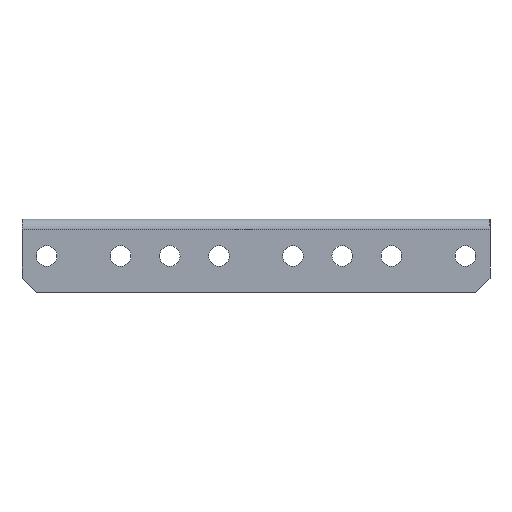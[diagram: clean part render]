
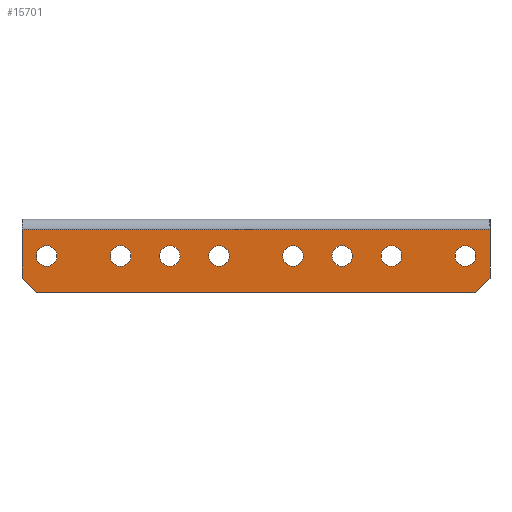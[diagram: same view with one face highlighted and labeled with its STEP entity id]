
A CAD part, front view. The second image highlights one B-rep face of the part: STEP entity #15701.
In plain terms, the highlighted planar face has unit normal (0, -1, 0).
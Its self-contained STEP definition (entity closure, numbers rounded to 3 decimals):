
#13546=CARTESIAN_POINT(' ',(-47.5,-33.,-2.1));
#13547=VERTEX_POINT(' ',#13546);
#13561=CARTESIAN_POINT(' ',(-47.5,-33.,-2.1));
#13566=DIRECTION(' ',(1.,0.,0.));
#13571=VECTOR(' ',#13566,1.);
#13576=LINE('',#13561,#13571);
#13581=CARTESIAN_POINT(' ',(47.5,-33.,-2.1));
#13582=VERTEX_POINT(' ',#13581);
#13586=EDGE_CURVE(' ',#13547,#13582,#13576,.T.);
#13681=CARTESIAN_POINT(' ',(47.5,-33.,-12.));
#13686=DIRECTION(' ',(0.,0.,1.));
#13691=VECTOR(' ',#13686,1.);
#13696=LINE('',#13681,#13691);
#13701=CARTESIAN_POINT(' ',(47.5,-33.,-12.));
#13702=VERTEX_POINT(' ',#13701);
#13706=EDGE_CURVE(' ',#13702,#13582,#13696,.T.);
#14756=CARTESIAN_POINT(' ',(-47.5,-33.,-12.));
#14757=VERTEX_POINT(' ',#14756);
#14771=CARTESIAN_POINT(' ',(-47.5,-33.,-2.1));
#14776=DIRECTION(' ',(0.,0.,-1.));
#14781=VECTOR(' ',#14776,1.);
#14786=LINE('',#14771,#14781);
#14791=EDGE_CURVE(' ',#13547,#14757,#14786,.T.);
#14831=DIRECTION(' ',(-0.,-1.,0.));
#14836=CARTESIAN_POINT(' ',(-47.5,-33.,-15.));
#14841=DIRECTION(' ',(1.,-0.,0.));
#14846=AXIS2_PLACEMENT_3D(' ',#14836,#14831,#14841);
#14851=PLANE('NONE',#14846);
#14856=CARTESIAN_POINT(' ',(-44.5,-33.,-15.));
#14861=DIRECTION(' ',(1.,0.,0.));
#14866=VECTOR(' ',#14861,1.);
#14871=LINE('',#14856,#14866);
#14876=CARTESIAN_POINT(' ',(-44.5,-33.,-15.));
#14877=VERTEX_POINT(' ',#14876);
#14881=CARTESIAN_POINT(' ',(44.5,-33.,-15.));
#14882=VERTEX_POINT(' ',#14881);
#14886=EDGE_CURVE(' ',#14877,#14882,#14871,.T.);
#14891=ORIENTED_EDGE(' ',*,*,#14886,.T.);
#14896=CARTESIAN_POINT(' ',(44.5,-33.,-15.));
#14901=DIRECTION(' ',(0.707,0.,0.707));
#14906=VECTOR(' ',#14901,1.);
#14911=LINE('',#14896,#14906);
#14916=EDGE_CURVE(' ',#14882,#13702,#14911,.T.);
#14921=ORIENTED_EDGE(' ',*,*,#14916,.T.);
#14926=ORIENTED_EDGE(' ',*,*,#13706,.T.);
#14931=ORIENTED_EDGE(' ',*,*,#13586,.F.);
#14936=ORIENTED_EDGE(' ',*,*,#14791,.T.);
#14941=CARTESIAN_POINT(' ',(-47.5,-33.,-12.));
#14946=DIRECTION(' ',(0.707,0.,-0.707));
#14951=VECTOR(' ',#14946,1.);
#14956=LINE('',#14941,#14951);
#14961=EDGE_CURVE(' ',#14757,#14877,#14956,.T.);
#14966=ORIENTED_EDGE(' ',*,*,#14961,.T.);
#14971=EDGE_LOOP(' ',(#14891,#14921,#14926,#14931,#14936,#14966));
#14976=FACE_OUTER_BOUND(' ',#14971,.T.);
#14981=CARTESIAN_POINT(' ',(42.5,-33.,-7.5));
#14986=DIRECTION(' ',(0.,-1.,0.));
#14991=DIRECTION(' ',(0.,0.,-1.));
#14996=AXIS2_PLACEMENT_3D(' ',#14981,#14986,#14991);
#15001=CIRCLE('',#14996,2.1);
#15006=CARTESIAN_POINT(' ',(42.5,-33.,-9.6));
#15007=VERTEX_POINT(' ',#15006);
#15011=CARTESIAN_POINT(' ',(42.5,-33.,-5.4));
#15012=VERTEX_POINT(' ',#15011);
#15016=EDGE_CURVE(' ',#15007,#15012,#15001,.T.);
#15021=ORIENTED_EDGE(' ',*,*,#15016,.F.);
#15026=CARTESIAN_POINT(' ',(42.5,-33.,-7.5));
#15031=DIRECTION(' ',(0.,-1.,0.));
#15036=DIRECTION(' ',(0.,0.,1.));
#15041=AXIS2_PLACEMENT_3D(' ',#15026,#15031,#15036);
#15046=CIRCLE('',#15041,2.1);
#15051=EDGE_CURVE(' ',#15012,#15007,#15046,.T.);
#15056=ORIENTED_EDGE(' ',*,*,#15051,.F.);
#15061=EDGE_LOOP(' ',(#15021,#15056));
#15066=FACE_BOUND(' ',#15061,.T.);
#15071=CARTESIAN_POINT(' ',(27.5,-33.,-7.5));
#15076=DIRECTION(' ',(0.,-1.,0.));
#15081=DIRECTION(' ',(0.,0.,-1.));
#15086=AXIS2_PLACEMENT_3D(' ',#15071,#15076,#15081);
#15091=CIRCLE('',#15086,2.1);
#15096=CARTESIAN_POINT(' ',(27.5,-33.,-9.6));
#15097=VERTEX_POINT(' ',#15096);
#15101=CARTESIAN_POINT(' ',(27.5,-33.,-5.4));
#15102=VERTEX_POINT(' ',#15101);
#15106=EDGE_CURVE(' ',#15097,#15102,#15091,.T.);
#15111=ORIENTED_EDGE(' ',*,*,#15106,.F.);
#15116=CARTESIAN_POINT(' ',(27.5,-33.,-7.5));
#15121=DIRECTION(' ',(0.,-1.,0.));
#15126=DIRECTION(' ',(0.,0.,1.));
#15131=AXIS2_PLACEMENT_3D(' ',#15116,#15121,#15126);
#15136=CIRCLE('',#15131,2.1);
#15141=EDGE_CURVE(' ',#15102,#15097,#15136,.T.);
#15146=ORIENTED_EDGE(' ',*,*,#15141,.F.);
#15151=EDGE_LOOP(' ',(#15111,#15146));
#15156=FACE_BOUND(' ',#15151,.T.);
#15161=CARTESIAN_POINT(' ',(-42.5,-33.,-7.5));
#15166=DIRECTION(' ',(0.,-1.,0.));
#15171=DIRECTION(' ',(0.,0.,-1.));
#15176=AXIS2_PLACEMENT_3D(' ',#15161,#15166,#15171);
#15181=CIRCLE('',#15176,2.1);
#15186=CARTESIAN_POINT(' ',(-42.5,-33.,-9.6));
#15187=VERTEX_POINT(' ',#15186);
#15191=CARTESIAN_POINT(' ',(-42.5,-33.,-5.4));
#15192=VERTEX_POINT(' ',#15191);
#15196=EDGE_CURVE(' ',#15187,#15192,#15181,.T.);
#15201=ORIENTED_EDGE(' ',*,*,#15196,.F.);
#15206=CARTESIAN_POINT(' ',(-42.5,-33.,-7.5));
#15211=DIRECTION(' ',(0.,-1.,0.));
#15216=DIRECTION(' ',(0.,0.,1.));
#15221=AXIS2_PLACEMENT_3D(' ',#15206,#15211,#15216);
#15226=CIRCLE('',#15221,2.1);
#15231=EDGE_CURVE(' ',#15192,#15187,#15226,.T.);
#15236=ORIENTED_EDGE(' ',*,*,#15231,.F.);
#15241=EDGE_LOOP(' ',(#15201,#15236));
#15246=FACE_BOUND(' ',#15241,.T.);
#15251=CARTESIAN_POINT(' ',(-7.5,-33.,-7.5));
#15256=DIRECTION(' ',(0.,-1.,0.));
#15261=DIRECTION(' ',(0.,0.,-1.));
#15266=AXIS2_PLACEMENT_3D(' ',#15251,#15256,#15261);
#15271=CIRCLE('',#15266,2.1);
#15276=CARTESIAN_POINT(' ',(-7.5,-33.,-9.6));
#15277=VERTEX_POINT(' ',#15276);
#15281=CARTESIAN_POINT(' ',(-7.5,-33.,-5.4));
#15282=VERTEX_POINT(' ',#15281);
#15286=EDGE_CURVE(' ',#15277,#15282,#15271,.T.);
#15291=ORIENTED_EDGE(' ',*,*,#15286,.F.);
#15296=CARTESIAN_POINT(' ',(-7.5,-33.,-7.5));
#15301=DIRECTION(' ',(0.,-1.,0.));
#15306=DIRECTION(' ',(0.,0.,1.));
#15311=AXIS2_PLACEMENT_3D(' ',#15296,#15301,#15306);
#15316=CIRCLE('',#15311,2.1);
#15321=EDGE_CURVE(' ',#15282,#15277,#15316,.T.);
#15326=ORIENTED_EDGE(' ',*,*,#15321,.F.);
#15331=EDGE_LOOP(' ',(#15291,#15326));
#15336=FACE_BOUND(' ',#15331,.T.);
#15341=CARTESIAN_POINT(' ',(-27.5,-33.,-7.5));
#15346=DIRECTION(' ',(0.,-1.,0.));
#15351=DIRECTION(' ',(0.,0.,-1.));
#15356=AXIS2_PLACEMENT_3D(' ',#15341,#15346,#15351);
#15361=CIRCLE('',#15356,2.1);
#15366=CARTESIAN_POINT(' ',(-27.5,-33.,-9.6));
#15367=VERTEX_POINT(' ',#15366);
#15371=CARTESIAN_POINT(' ',(-27.5,-33.,-5.4));
#15372=VERTEX_POINT(' ',#15371);
#15376=EDGE_CURVE(' ',#15367,#15372,#15361,.T.);
#15381=ORIENTED_EDGE(' ',*,*,#15376,.F.);
#15386=CARTESIAN_POINT(' ',(-27.5,-33.,-7.5));
#15391=DIRECTION(' ',(0.,-1.,0.));
#15396=DIRECTION(' ',(0.,0.,1.));
#15401=AXIS2_PLACEMENT_3D(' ',#15386,#15391,#15396);
#15406=CIRCLE('',#15401,2.1);
#15411=EDGE_CURVE(' ',#15372,#15367,#15406,.T.);
#15416=ORIENTED_EDGE(' ',*,*,#15411,.F.);
#15421=EDGE_LOOP(' ',(#15381,#15416));
#15426=FACE_BOUND(' ',#15421,.T.);
#15431=CARTESIAN_POINT(' ',(7.5,-33.,-7.5));
#15436=DIRECTION(' ',(0.,-1.,0.));
#15441=DIRECTION(' ',(0.,0.,-1.));
#15446=AXIS2_PLACEMENT_3D(' ',#15431,#15436,#15441);
#15451=CIRCLE('',#15446,2.1);
#15456=CARTESIAN_POINT(' ',(7.5,-33.,-9.6));
#15457=VERTEX_POINT(' ',#15456);
#15461=CARTESIAN_POINT(' ',(7.5,-33.,-5.4));
#15462=VERTEX_POINT(' ',#15461);
#15466=EDGE_CURVE(' ',#15457,#15462,#15451,.T.);
#15471=ORIENTED_EDGE(' ',*,*,#15466,.F.);
#15476=CARTESIAN_POINT(' ',(7.5,-33.,-7.5));
#15481=DIRECTION(' ',(0.,-1.,0.));
#15486=DIRECTION(' ',(0.,0.,1.));
#15491=AXIS2_PLACEMENT_3D(' ',#15476,#15481,#15486);
#15496=CIRCLE('',#15491,2.1);
#15501=EDGE_CURVE(' ',#15462,#15457,#15496,.T.);
#15506=ORIENTED_EDGE(' ',*,*,#15501,.F.);
#15511=EDGE_LOOP(' ',(#15471,#15506));
#15516=FACE_BOUND(' ',#15511,.T.);
#15521=CARTESIAN_POINT(' ',(17.5,-33.,-7.5));
#15526=DIRECTION(' ',(0.,-1.,0.));
#15531=DIRECTION(' ',(0.,0.,-1.));
#15536=AXIS2_PLACEMENT_3D(' ',#15521,#15526,#15531);
#15541=CIRCLE('',#15536,2.1);
#15546=CARTESIAN_POINT(' ',(17.5,-33.,-9.6));
#15547=VERTEX_POINT(' ',#15546);
#15551=CARTESIAN_POINT(' ',(17.5,-33.,-5.4));
#15552=VERTEX_POINT(' ',#15551);
#15556=EDGE_CURVE(' ',#15547,#15552,#15541,.T.);
#15561=ORIENTED_EDGE(' ',*,*,#15556,.F.);
#15566=CARTESIAN_POINT(' ',(17.5,-33.,-7.5));
#15571=DIRECTION(' ',(0.,-1.,0.));
#15576=DIRECTION(' ',(0.,0.,1.));
#15581=AXIS2_PLACEMENT_3D(' ',#15566,#15571,#15576);
#15586=CIRCLE('',#15581,2.1);
#15591=EDGE_CURVE(' ',#15552,#15547,#15586,.T.);
#15596=ORIENTED_EDGE(' ',*,*,#15591,.F.);
#15601=EDGE_LOOP(' ',(#15561,#15596));
#15606=FACE_BOUND(' ',#15601,.T.);
#15611=CARTESIAN_POINT(' ',(-17.5,-33.,-7.5));
#15616=DIRECTION(' ',(0.,-1.,0.));
#15621=DIRECTION(' ',(0.,0.,-1.));
#15626=AXIS2_PLACEMENT_3D(' ',#15611,#15616,#15621);
#15631=CIRCLE('',#15626,2.1);
#15636=CARTESIAN_POINT(' ',(-17.5,-33.,-9.6));
#15637=VERTEX_POINT(' ',#15636);
#15641=CARTESIAN_POINT(' ',(-17.5,-33.,-5.4));
#15642=VERTEX_POINT(' ',#15641);
#15646=EDGE_CURVE(' ',#15637,#15642,#15631,.T.);
#15651=ORIENTED_EDGE(' ',*,*,#15646,.F.);
#15656=CARTESIAN_POINT(' ',(-17.5,-33.,-7.5));
#15661=DIRECTION(' ',(0.,-1.,0.));
#15666=DIRECTION(' ',(0.,0.,1.));
#15671=AXIS2_PLACEMENT_3D(' ',#15656,#15661,#15666);
#15676=CIRCLE('',#15671,2.1);
#15681=EDGE_CURVE(' ',#15642,#15637,#15676,.T.);
#15686=ORIENTED_EDGE(' ',*,*,#15681,.F.);
#15691=EDGE_LOOP(' ',(#15651,#15686));
#15696=FACE_BOUND(' ',#15691,.T.);
#15701=ADVANCED_FACE('NONE',(#14976,#15066,#15156,#15246,#15336,#15426,#15516,#15606,#15696),#14851,.T.);
